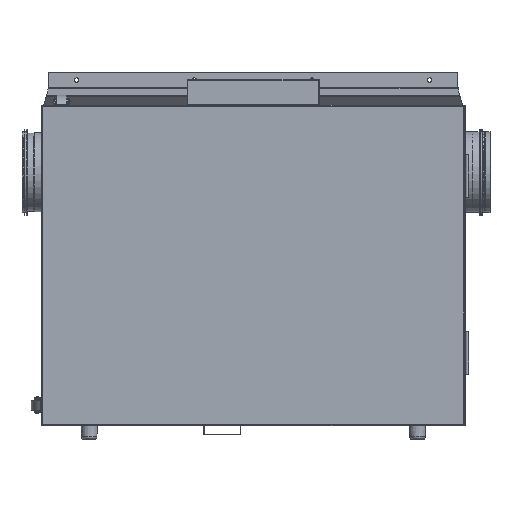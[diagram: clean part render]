
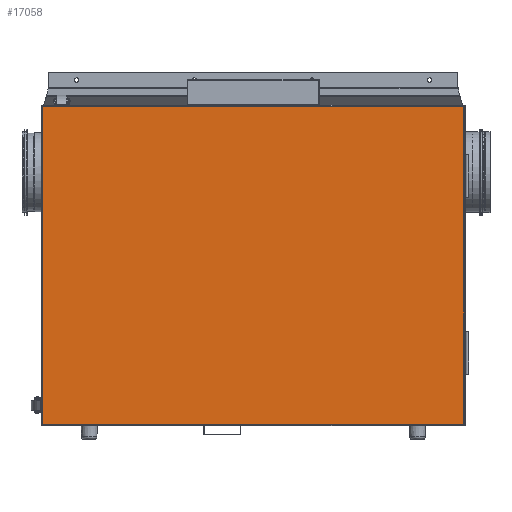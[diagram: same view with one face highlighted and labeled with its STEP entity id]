
A CAD part, top view. The second image highlights one B-rep face of the part: STEP entity #17058.
In plain terms, the highlighted planar face has unit normal (0, 0, 1) as drawn and (0, -1, 0) by its records, which use the part's own axes.
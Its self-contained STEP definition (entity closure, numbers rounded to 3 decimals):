
#1152=LINE('',#29374,#2516);
#1154=LINE('',#29384,#2518);
#1156=LINE('',#29387,#2520);
#1177=LINE('',#29433,#2541);
#1179=LINE('',#29438,#2543);
#1201=LINE('',#29473,#2565);
#1202=LINE('',#29474,#2566);
#1203=LINE('',#29475,#2567);
#2516=VECTOR('',#23366,1000.);
#2518=VECTOR('',#23378,1000.);
#2520=VECTOR('',#23382,1000.);
#2541=VECTOR('',#23425,1000.);
#2543=VECTOR('',#23431,1000.);
#2565=VECTOR('',#23477,1000.);
#2566=VECTOR('',#23478,1000.);
#2567=VECTOR('',#23479,1000.);
#3438=PLANE('',#19511);
#6914=ORIENTED_EDGE('',*,*,#9836,.T.);
#6915=ORIENTED_EDGE('',*,*,#9829,.T.);
#6916=ORIENTED_EDGE('',*,*,#9885,.T.);
#6917=ORIENTED_EDGE('',*,*,#9886,.T.);
#6918=ORIENTED_EDGE('',*,*,#9859,.T.);
#6919=ORIENTED_EDGE('',*,*,#9862,.T.);
#6920=ORIENTED_EDGE('',*,*,#9887,.T.);
#6921=ORIENTED_EDGE('',*,*,#9834,.T.);
#9829=EDGE_CURVE('',#11637,#11614,#1152,.T.);
#9834=EDGE_CURVE('',#11598,#11639,#1154,.T.);
#9836=EDGE_CURVE('',#11639,#11637,#1156,.T.);
#9859=EDGE_CURVE('',#11652,#11653,#1177,.T.);
#9862=EDGE_CURVE('',#11653,#11582,#1179,.T.);
#9885=EDGE_CURVE('',#11614,#11566,#1201,.T.);
#9886=EDGE_CURVE('',#11566,#11652,#1202,.T.);
#9887=EDGE_CURVE('',#11582,#11598,#1203,.T.);
#11566=VERTEX_POINT('',#29107);
#11582=VERTEX_POINT('',#29173);
#11598=VERTEX_POINT('',#29239);
#11614=VERTEX_POINT('',#29305);
#11637=VERTEX_POINT('',#29375);
#11639=VERTEX_POINT('',#29383);
#11652=VERTEX_POINT('',#29430);
#11653=VERTEX_POINT('',#29432);
#13996=EDGE_LOOP('',(#6914,#6915,#6916,#6917,#6918,#6919,#6920,#6921));
#15552=FACE_BOUND('',#13996,.T.);
#17058=ADVANCED_FACE('',(#15552),#3438,.F.);
#19511=AXIS2_PLACEMENT_3D('',#29472,#23475,#23476);
#23366=DIRECTION('',(0.,0.,-1.));
#23378=DIRECTION('',(0.,0.,1.));
#23382=DIRECTION('',(-1.,0.,0.));
#23425=DIRECTION('',(1.,0.,0.));
#23431=DIRECTION('',(0.,0.,1.));
#23475=DIRECTION('',(0.,1.,0.));
#23476=DIRECTION('',(0.,0.,1.));
#23477=DIRECTION('',(0.,0.,-1.));
#23478=DIRECTION('',(0.,0.,-1.));
#23479=DIRECTION('',(0.,0.,1.));
#29107=CARTESIAN_POINT('',(-405.3,-290.7,2.402));
#29173=CARTESIAN_POINT('',(430.3,-290.7,2.402));
#29239=CARTESIAN_POINT('',(430.3,-290.7,631.598));
#29305=CARTESIAN_POINT('',(-405.3,-290.7,631.598));
#29374=CARTESIAN_POINT('',(-405.3,-290.7,632.3));
#29375=CARTESIAN_POINT('',(-405.3,-290.7,632.3));
#29383=CARTESIAN_POINT('',(430.3,-290.7,632.3));
#29384=CARTESIAN_POINT('',(430.3,-290.7,1.7));
#29387=CARTESIAN_POINT('',(432.,-290.7,632.3));
#29430=CARTESIAN_POINT('',(-405.3,-290.7,1.7));
#29432=CARTESIAN_POINT('',(430.3,-290.7,1.7));
#29433=CARTESIAN_POINT('',(-407.,-290.7,1.7));
#29438=CARTESIAN_POINT('',(430.3,-290.7,1.7));
#29472=CARTESIAN_POINT('',(0.,-290.7,0.));
#29473=CARTESIAN_POINT('',(-405.3,-290.7,632.3));
#29474=CARTESIAN_POINT('',(-405.3,-290.7,632.3));
#29475=CARTESIAN_POINT('',(430.3,-290.7,1.7));
